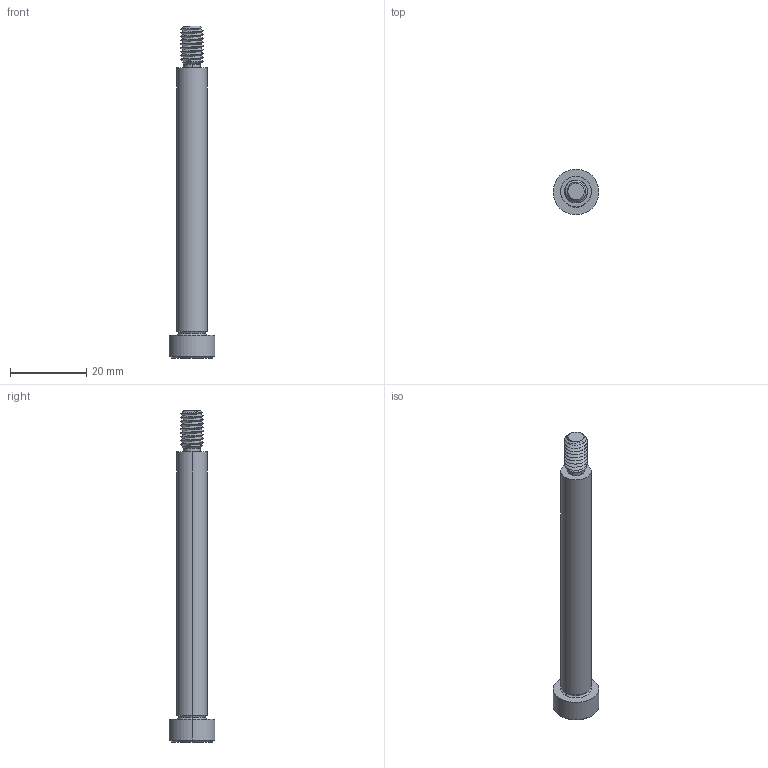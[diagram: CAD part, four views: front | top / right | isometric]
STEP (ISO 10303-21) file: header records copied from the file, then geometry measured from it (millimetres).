
FILE_DESCRIPTION (( 'STEP AP203' ), '1' );
FILE_NAME ('P0130.080-070-B2.step', '2021-11-09T21:44:16', ( '' ), ( '' ), 'SwSTEP 2.0', 'SolidWorks 2019', '' );
FILE_SCHEMA (( 'CONFIG_CONTROL_DESIGN' ));
Length unit declared in the file: millimetre
Products named in the file (1): P0130.080-070-B2
Bounding box: 12 x 12 x 87 mm (x, y, z)
Volume: 4351.6 mm3; surface area: 2592.1 mm2
Topology: 1 solids, 1 shells, 60 faces, 142 edges, 85 vertices
Faces by surface type: cylinder 24, plane 16, cone 14, torus 4, bspline 2
Entity records: 4245 total; most frequent: CARTESIAN_POINT 2899, ORIENTED_EDGE 280, DIRECTION 247, EDGE_CURVE 140, AXIS2_PLACEMENT_3D 99, VERTEX_POINT 85, EDGE_LOOP 63, FACE_OUTER_BOUND 60
